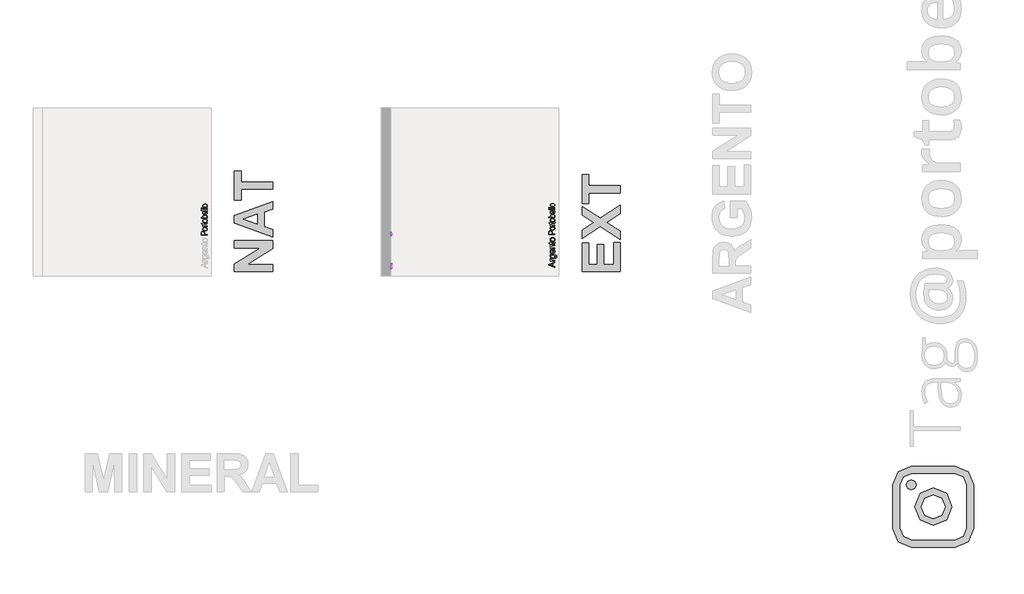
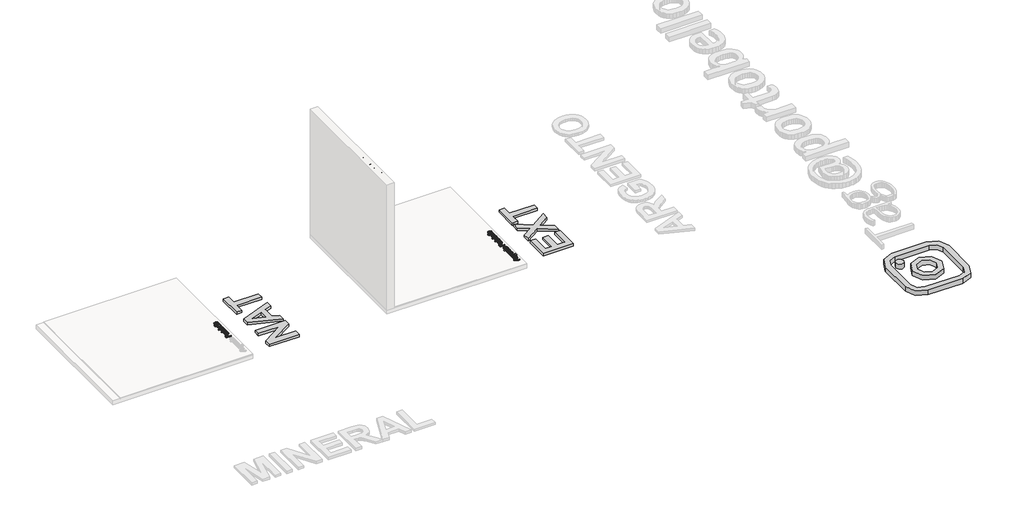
# One storey, part 4 of 14: 8 proxies.
"""IFC4 building model written with IfcOpenShell, lengths in millimetres."""

from ifc_helpers import new_model, si_unit, frame, origin, origin_with_axes, place, context, project, spatial, polyline, outline, extrude, transform, mapped, element, save
from components import generic_models_d67f6705

model = new_model("IFC4")

# Units and contexts
model_context = context("Model", 3, world=origin())
ifc_project = project(units=[si_unit("LENGTHUNIT", "METRE", prefix="MILLI")], contexts=[model_context])

# Site, building, storey
site = spatial("IfcSite", under=ifc_project)
building = spatial("IfcBuilding", under=site)
storey = spatial("IfcBuildingStorey", under=building, Name="PORTOBELLO - SHOWROOM", Elevation=0.0)

# Proxies
placement = place(None, origin())
generic_models_shape = generic_models_d67f6705(model_context)
element("IfcBuildingElementProxy", 1, Name="Blks_Instagram1 : Único 2", ObjectType="Blks_Instagram1 : Único 2", at=placement, inside=storey, context=model_context, shape_type="MappedRepresentation", body=[
    mapped(generic_models_shape, transform((203977.4235314, -12929.1085955, 0.0), x_axis=(-1.0, 0.0, 0.0), y_axis=(0.0, -1.0, 0.0), z_axis=(0.0, 0.0, 1.0))),
])
element("IfcBuildingElementProxy", 2, Name="10mm Arial", ObjectType="10mm Arial", at=placement, inside=storey, context=model_context, shape_type="SweptSolid", body=[
    extrude(outline(polyline([(197908.7702777, -9089.4106289), (197808.3139676, -9049.3114915), (197808.3139676, -9038.6183881), (197908.7702777, -8998.5192507), (197908.7702777, -9011.787528), (197877.3776808, -9023.2899717), (197877.3776808, -9064.6644334), (197908.7702777, -9076.1423516), (197908.7702777, -9089.4106289)]), holes=[polyline([(197864.820642, -9060.0536457), (197864.820642, -9027.8762339), (197840.1234974, -9036.926131), (197820.8710063, -9043.9649398), (197837.9652564, -9050.2189337), (197864.820642, -9060.0536457)])]), frame((0.0, 0.0, 17.0), z_axis=(0.0, 0.0, 1.0), x_axis=(1.0, 0.0, 0.0)), (0.0, 0.0, 1.0), 20.0),
    extrude(outline(polyline([(197908.7702777, -8986.6734504), (197834.997675, -8986.6734504), (197834.997675, -8975.6860415), (197845.9115075, -8975.6860415), (197835.8560663, -8967.8869432), (197833.4280451, -8960.038794), (197837.3030688, -8947.4327043), (197848.5602578, -8951.626559), (197845.9850839, -8960.4557269), (197848.462156, -8967.5558494), (197855.3292866, -8972.0807979), (197869.9955154, -8974.1164117), (197908.7702777, -8974.1164117), (197908.7702777, -8986.6734504)])), frame((0.0, 0.0, 17.0), z_axis=(0.0, 0.0, 1.0), x_axis=(1.0, 0.0, 0.0)), (0.0, 0.0, 1.0), 20.0),
    extrude(outline(polyline([(197915.0487971, -8942.7238147), (197916.618427, -8930.166776), (197923.2403029, -8926.0955485), (197926.036206, -8913.9063918), (197922.8724209, -8901.0550474), (197913.9942021, -8894.9236808), (197899.3524986, -8894.0652895), (197906.415833, -8902.9067201), (197908.7702777, -8913.6856626), (197906.0295569, -8926.6320431), (197897.8073943, -8936.2858798), (197885.7531276, -8942.2915534), (197871.5160943, -8944.2934446), (197852.0551368, -8940.7004638), (197838.2840874, -8930.301666), (197833.4280451, -8914.2987992), (197836.1748973, -8903.0967925), (197844.415454, -8894.0652895), (197834.997675, -8894.0652895), (197834.997675, -8881.5082507), (197898.6903111, -8881.5082507), (197923.0808873, -8884.941816), (197934.4239155, -8895.8188603), (197938.5932448, -8914.1516464), (197937.1247825, -8925.8349655), (197932.7193956, -8935.035081), (197925.3648214, -8940.9365214), (197915.0487971, -8942.7238147)]), holes=[polyline([(197870.657703, -8931.7364058), (197882.1754752, -8930.3967022), (197890.0941351, -8926.3775914), (197894.683463, -8920.3351296), (197896.213239, -8912.9253731), (197894.69266, -8905.5707989), (197890.1309233, -8899.4976803), (197882.3134309, -8895.4233872), (197871.025585, -8894.0652895), (197860.1393436, -8895.4632411), (197852.3003915, -8899.6570958), (197847.5639108, -8905.8191192), (197845.9850839, -8913.1215769), (197847.5393853, -8920.2922101), (197852.2022896, -8926.304015), (197859.9247458, -8930.3783081), (197870.657703, -8931.7364058)])]), frame((0.0, 0.0, 17.0), z_axis=(0.0, 0.0, 1.0), x_axis=(1.0, 0.0, 0.0)), (0.0, 0.0, 1.0), 20.0),
    extrude(outline(polyline([(197886.7954599, -8811.0220605), (197888.3650897, -8798.7102764), (197897.6418474, -8803.1463201), (197904.576423, -8810.2249828), (197908.8990364, -8819.786849), (197910.3399076, -8831.6725031), (197907.8536384, -8846.406177), (197900.394831, -8857.7430738), (197888.4478632, -8864.9719551), (197872.497113, -8867.3815821), (197856.0098682, -8864.9474296), (197843.67969, -8857.644972), (197835.9909563, -8846.4613593), (197833.4280451, -8832.3837416), (197835.984825, -8818.7445167), (197843.6551646, -8807.8460126), (197855.9608173, -8800.6999048), (197872.4235366, -8798.3178689), (197875.808051, -8798.3914453), (197875.808051, -8854.8245434), (197885.2074359, -8852.6509739), (197892.1174861, -8847.6017935), (197896.3665231, -8840.3146643), (197897.7828688, -8831.4272485), (197895.1586439, -8819.1154644), (197886.7954599, -8811.0220605)]), holes=[polyline([(197863.2510122, -8854.8245434), (197863.2510122, -8810.8749077), (197851.8711958, -8815.9026283), (197847.4566119, -8823.22348), (197845.9850839, -8832.4327926), (197850.6817107, -8847.8960991), (197856.1723495, -8852.7613385), (197863.2510122, -8854.8245434)])]), frame((0.0, 0.0, 17.0), z_axis=(0.0, 0.0, 1.0), x_axis=(1.0, 0.0, 0.0)), (0.0, 0.0, 1.0), 20.0),
    extrude(outline(polyline([(197908.7702777, -8785.7608301), (197834.997675, -8785.7608301), (197834.997675, -8773.2037914), (197845.2983708, -8773.2037914), (197836.3956265, -8763.6020713), (197833.4280451, -8750.4932095), (197835.8192781, -8738.6351465), (197842.0977975, -8730.5417426), (197851.3316355, -8726.7770836), (197863.4717414, -8726.114896), (197908.7702777, -8726.114896), (197908.7702777, -8738.6719347), (197865.1639986, -8738.6719347), (197854.0539623, -8740.1189373), (197848.1801131, -8745.232497), (197845.9850839, -8753.8531984), (197850.9147026, -8767.477095), (197858.0577447, -8771.7721173), (197869.6276334, -8773.2037914), (197908.7702777, -8773.2037914), (197908.7702777, -8785.7608301)])), frame((0.0, 0.0, 17.0), z_axis=(0.0, 0.0, 1.0), x_axis=(1.0, 0.0, 0.0)), (0.0, 0.0, 1.0), 20.0),
    extrude(outline(polyline([(197898.2979036, -8682.1652603), (197909.1381597, -8680.5956304), (197910.3399076, -8689.988884), (197908.2552429, -8700.5103091), (197902.7860639, -8705.7587589), (197888.536768, -8707.2793378), (197847.5547137, -8707.2793378), (197847.5547137, -8716.6971169), (197834.997675, -8716.6971169), (197834.997675, -8707.2793378), (197817.0695591, -8707.2793378), (197809.6873937, -8694.722299), (197834.997675, -8694.722299), (197834.997675, -8682.1652603), (197847.5547137, -8682.1652603), (197847.5547137, -8694.722299), (197888.168886, -8694.722299), (197894.6436091, -8694.0601115), (197896.9367402, -8691.9141332), (197897.7828688, -8687.6344393), (197898.2979036, -8682.1652603)])), frame((0.0, 0.0, 17.0), z_axis=(0.0, 0.0, 1.0), x_axis=(1.0, 0.0, 0.0)), (0.0, 0.0, 1.0), 20.0),
    extrude(outline(polyline([(197871.8839763, -8672.7474812), (197854.0968819, -8670.0312858), (197841.5950254, -8661.8826996), (197835.4697902, -8651.8149957), (197833.4280451, -8639.760729), (197835.9143143, -8626.5690938), (197843.3731217, -8616.0323403), (197855.2158563, -8609.1253558), (197870.8539068, -8606.8230277), (197893.1966066, -8610.8942551), (197905.8394845, -8622.7523181), (197910.3399076, -8639.760729), (197907.8628355, -8653.1117797), (197900.4316192, -8663.6362705), (197888.3405643, -8670.4696785), (197871.8839763, -8672.7474812)]), holes=[polyline([(197871.8594509, -8660.1904424), (197883.2239388, -8658.7373086), (197891.3204084, -8654.3779069), (197896.1672537, -8647.8173447), (197897.7828688, -8639.760729), (197896.1580567, -8631.7409015), (197891.2836202, -8625.192602), (197883.0798517, -8620.8332003), (197871.4670434, -8619.3800664), (197860.4336492, -8620.8423974), (197852.4475443, -8625.2293902), (197847.600699, -8631.7868867), (197845.9850839, -8639.760729), (197847.5945676, -8647.8173447), (197852.4230188, -8654.3779069), (197860.5010943, -8658.7373086), (197871.8594509, -8660.1904424)])]), frame((0.0, 0.0, 17.0), z_axis=(0.0, 0.0, 1.0), x_axis=(1.0, 0.0, 0.0)), (0.0, 0.0, 1.0), 20.0),
])
element("IfcBuildingElementProxy", 3, Name="10mm Arial", ObjectType="10mm Arial", at=placement, inside=storey, context=model_context, shape_type="SweptSolid", body=[
    extrude(outline(polyline([(-9109.6433663, 2558.2261649), (-9069.5442288, 2658.6824751), (-9058.8511255, 2658.6824751), (-9018.751988, 2558.2261649), (-9032.0202653, 2558.2261649), (-9043.522709, 2589.6187619), (-9084.8971708, 2589.6187619), (-9096.375089, 2558.2261649), (-9109.6433663, 2558.2261649)]), holes=[polyline([(-9080.2863831, 2602.1758006), (-9048.1089712, 2602.1758006), (-9057.1588683, 2626.8729452), (-9064.1976772, 2646.1254363), (-9070.4516711, 2629.0311863), (-9080.2863831, 2602.1758006)])]), frame((195271.7113716, 0.0, 0.0), z_axis=(1.0, 0.0, 0.0), x_axis=(0.0, 1.0, 0.0)), (0.0, 0.0, 1.0), 20.0),
    extrude(outline(polyline([(-9006.9061878, 2558.2261649), (-9006.9061878, 2631.9987677), (-8995.9187789, 2631.9987677), (-8995.9187789, 2621.0849352), (-8988.1196806, 2631.1403764), (-8980.2715313, 2633.5683975), (-8967.6654416, 2629.6933739), (-8971.8592964, 2618.4361848), (-8980.6884643, 2621.0113588), (-8987.7885868, 2618.5342867), (-8992.3135353, 2611.6671561), (-8994.349149, 2597.0009272), (-8994.349149, 2558.2261649), (-9006.9061878, 2558.2261649)])), frame((195271.7113716, 0.0, 0.0), z_axis=(1.0, 0.0, 0.0), x_axis=(0.0, 1.0, 0.0)), (0.0, 0.0, 1.0), 20.0),
    extrude(outline(polyline([(-8962.9565521, 2551.9476456), (-8950.3995133, 2550.3780157), (-8946.3282859, 2543.7561398), (-8934.1391291, 2540.9602366), (-8921.2877848, 2544.1240218), (-8915.1564182, 2553.0022406), (-8914.2980269, 2567.643944), (-8923.1394575, 2560.5806097), (-8933.9183999, 2558.2261649), (-8946.8647805, 2560.9668858), (-8956.5186172, 2569.1890484), (-8962.5242908, 2581.2433151), (-8964.5261819, 2595.4803483), (-8960.9332011, 2614.9413059), (-8950.5344034, 2628.7123552), (-8934.5315366, 2633.5683975), (-8923.3295298, 2630.8215453), (-8914.2980269, 2622.5809886), (-8914.2980269, 2631.9987677), (-8901.7409881, 2631.9987677), (-8901.7409881, 2568.3061316), (-8905.1745534, 2543.9155553), (-8916.0515977, 2532.5725271), (-8934.3843838, 2528.4031979), (-8946.0677028, 2529.8716602), (-8955.2678184, 2534.277047), (-8961.1692587, 2541.6316213), (-8962.9565521, 2551.9476456)]), holes=[polyline([(-8951.9691432, 2596.3387396), (-8950.6294396, 2584.8209675), (-8946.6103288, 2576.9023076), (-8940.567867, 2572.3129797), (-8933.1581105, 2570.7832037), (-8925.8035363, 2572.3037826), (-8919.7304177, 2576.8655194), (-8915.6561246, 2584.6830118), (-8914.2980269, 2595.9708576), (-8915.6959784, 2606.857099), (-8919.8898332, 2614.6960512), (-8926.0518566, 2619.4325319), (-8933.3543142, 2621.0113588), (-8940.5249474, 2619.4570573), (-8946.5367524, 2614.7941531), (-8950.6110455, 2607.0716968), (-8951.9691432, 2596.3387396)])]), frame((195271.7113716, 0.0, 0.0), z_axis=(1.0, 0.0, 0.0), x_axis=(0.0, 1.0, 0.0)), (0.0, 0.0, 1.0), 20.0),
    extrude(outline(polyline([(-8831.2547978, 2580.2009828), (-8818.9430137, 2578.6313529), (-8823.3790574, 2569.3545953), (-8830.4577202, 2562.4200197), (-8840.0195864, 2558.0974062), (-8851.9052405, 2556.6565351), (-8866.6389144, 2559.1428042), (-8877.9758112, 2566.6016117), (-8885.2046924, 2578.5485795), (-8887.6143195, 2594.4993297), (-8885.1801669, 2610.9865744), (-8877.8777093, 2623.3167526), (-8866.6940967, 2631.0054863), (-8852.616479, 2633.5683975), (-8838.977254, 2631.0116177), (-8828.0787499, 2623.3412781), (-8820.9326422, 2611.0356253), (-8818.5506063, 2594.5729061), (-8818.6241827, 2591.1883917), (-8875.0572807, 2591.1883917), (-8872.8837113, 2581.7890067), (-8867.8345309, 2574.8789566), (-8860.5474017, 2570.6299195), (-8851.6599858, 2569.2135739), (-8839.3482017, 2571.8377988), (-8831.2547978, 2580.2009828)]), holes=[polyline([(-8875.0572807, 2603.7454305), (-8831.107645, 2603.7454305), (-8836.1353656, 2615.1252469), (-8843.4562173, 2619.5398308), (-8852.6655299, 2621.0113588), (-8868.1288365, 2616.314732), (-8872.9940759, 2610.8240932), (-8875.0572807, 2603.7454305)])]), frame((195271.7113716, 0.0, 0.0), z_axis=(1.0, 0.0, 0.0), x_axis=(0.0, 1.0, 0.0)), (0.0, 0.0, 1.0), 20.0),
    extrude(outline(polyline([(-8805.9935675, 2558.2261649), (-8805.9935675, 2631.9987677), (-8793.4365287, 2631.9987677), (-8793.4365287, 2621.6980718), (-8783.8348086, 2630.6008161), (-8770.7259469, 2633.5683975), (-8758.8678839, 2631.1771646), (-8750.77448, 2624.8986452), (-8747.0098209, 2615.6648071), (-8746.3476333, 2603.5247013), (-8746.3476333, 2558.2261649), (-8758.9046721, 2558.2261649), (-8758.9046721, 2601.8324441), (-8760.3516746, 2612.9424804), (-8765.4652344, 2618.8163295), (-8774.0859358, 2621.0113588), (-8787.7098323, 2616.08174), (-8792.0048546, 2608.938698), (-8793.4365287, 2597.3688092), (-8793.4365287, 2558.2261649), (-8805.9935675, 2558.2261649)])), frame((195271.7113716, 0.0, 0.0), z_axis=(1.0, 0.0, 0.0), x_axis=(0.0, 1.0, 0.0)), (0.0, 0.0, 1.0), 20.0),
    extrude(outline(polyline([(-8702.3979976, 2568.6985391), (-8700.8283678, 2557.8582829), (-8710.2216214, 2556.6565351), (-8720.7430465, 2558.7411997), (-8725.9914963, 2564.2103787), (-8727.5120752, 2578.4596747), (-8727.5120752, 2619.4417289), (-8736.9298543, 2619.4417289), (-8736.9298543, 2631.9987677), (-8727.5120752, 2631.9987677), (-8727.5120752, 2649.9268836), (-8714.9550364, 2657.309049), (-8714.9550364, 2631.9987677), (-8702.3979976, 2631.9987677), (-8702.3979976, 2619.4417289), (-8714.9550364, 2619.4417289), (-8714.9550364, 2578.8275567), (-8714.2928488, 2572.3528336), (-8712.1468705, 2570.0597024), (-8707.8671766, 2569.2135739), (-8702.3979976, 2568.6985391)])), frame((195271.7113716, 0.0, 0.0), z_axis=(1.0, 0.0, 0.0), x_axis=(0.0, 1.0, 0.0)), (0.0, 0.0, 1.0), 20.0),
    extrude(outline(polyline([(-8692.9802186, 2595.1124663), (-8690.2640232, 2612.8995608), (-8682.115437, 2625.4014173), (-8672.047733, 2631.5266525), (-8659.9934663, 2633.5683975), (-8646.8018311, 2631.0821284), (-8636.2650776, 2623.6233209), (-8629.3580932, 2611.7805864), (-8627.055765, 2596.1425359), (-8631.1269924, 2573.7998361), (-8642.9850554, 2561.1569582), (-8659.9934663, 2556.6565351), (-8673.3445171, 2559.1336072), (-8683.8690078, 2566.5648235), (-8690.7024159, 2578.6558784), (-8692.9802186, 2595.1124663)]), holes=[polyline([(-8680.4231798, 2595.1369918), (-8678.9700459, 2583.7725038), (-8674.6106443, 2575.6760342), (-8668.050082, 2570.829189), (-8659.9934663, 2569.2135739), (-8651.9736388, 2570.838386), (-8645.4253393, 2575.7128224), (-8641.0659377, 2583.9165909), (-8639.6128038, 2595.5293992), (-8641.0751347, 2606.5627934), (-8645.4621275, 2614.5488984), (-8652.0196241, 2619.3957437), (-8659.9934663, 2621.0113588), (-8668.050082, 2619.4018751), (-8674.6106443, 2614.5734239), (-8678.9700459, 2606.4953484), (-8680.4231798, 2595.1369918)])]), frame((195271.7113716, 0.0, 0.0), z_axis=(1.0, 0.0, 0.0), x_axis=(0.0, 1.0, 0.0)), (0.0, 0.0, 1.0), 20.0),
])
element("IfcBuildingElementProxy", 4, Name="10mm Arial Narrow", ObjectType="10mm Arial Narrow", at=placement, inside=storey, context=model_context, shape_type="SweptSolid", body=[
    extrude(outline(polyline([(197908.7702777, -8560.3980819), (197808.051674, -8560.3980819), (197808.051674, -8529.1011972), (197809.9299947, -8512.8054957), (197819.4104379, -8501.3325096), (197836.4295467, -8497.0428311), (197848.5053722, -8498.8291395), (197858.131766, -8504.1880647), (197864.4330244, -8513.9318535), (197866.5334439, -8528.8727528), (197866.5334439, -8550.6511202), (197908.7702777, -8550.6511202), (197908.7702777, -8560.3980819)]), holes=[polyline([(197855.1619886, -8550.6511202), (197855.1619886, -8527.6797653), (197850.6311744, -8511.8155699), (197836.9625837, -8506.7897928), (197826.7968073, -8509.2646073), (197820.9968574, -8515.2422361), (197819.4231292, -8527.9082097), (197819.4231292, -8550.6511202), (197855.1619886, -8550.6511202)])]), frame((0.0, 0.0, 17.0), z_axis=(0.0, 0.0, 1.0), x_axis=(1.0, 0.0, 0.0)), (0.0, 0.0, 1.0), 20.0),
    extrude(outline(polyline([(197872.2191715, -8488.9203631), (197855.628396, -8486.9658942), (197843.6763112, -8481.1024876), (197836.4517566, -8472.2439209), (197834.0435717, -8461.3039717), (197836.4517566, -8450.4909361), (197843.6763112, -8441.6069867), (197855.4380256, -8435.667432), (197871.4576901, -8433.6875804), (197888.6195767, -8435.6325307), (197900.7620319, -8441.4673818), (197907.9865865, -8450.31643), (197910.3947713, -8461.3039717), (197907.9802408, -8472.1645999), (197900.7366492, -8481.0390308), (197888.7782187, -8486.95003), (197872.2191715, -8488.9203631)]), holes=[polyline([(197872.1937888, -8479.1734014), (197884.7455402, -8477.8693646), (197893.6167983, -8473.957254), (197898.8900568, -8468.1160572), (197900.6478097, -8461.0247619), (197898.8741926, -8454.3046887), (197893.5533415, -8448.6126154), (197884.6662192, -8444.7290604), (197872.1937888, -8443.434542), (197859.6801115, -8444.7385789), (197850.8215448, -8448.6506895), (197845.5482862, -8454.4918862), (197843.7905334, -8461.5831816), (197845.5578047, -8468.3508473), (197850.8596188, -8474.0334021), (197859.7277041, -8477.8884016), (197872.1937888, -8479.1734014)])]), frame((0.0, 0.0, 17.0), z_axis=(0.0, 0.0, 1.0), x_axis=(1.0, 0.0, 0.0)), (0.0, 0.0, 1.0), 20.0),
    extrude(outline(polyline([(197900.6478097, -8362.2098616), (197910.3947713, -8360.585368), (197910.3947713, -8367.9463546), (197908.2753148, -8376.221119), (197902.475365, -8380.5361801), (197887.8295398, -8381.7037849), (197845.415027, -8381.7037849), (197845.415027, -8389.8262529), (197842.1660398, -8389.8262529), (197847.0395206, -8391.4507465), (197845.415027, -8399.0147949), (197847.7375452, -8405.0939546), (197854.2228283, -8408.9648183), (197869.6301348, -8410.9446698), (197908.7702777, -8410.9446698), (197908.7702777, -8420.6916315), (197835.6680653, -8420.6916315), (197835.6680653, -8410.9446698), (197845.3642615, -8410.9446698), (197836.2772504, -8404.7005225), (197834.0435717, -8398.304079), (197835.6680653, -8389.8262529), (197835.6680653, -8381.7037849), (197819.4231292, -8381.7037849), (197811.3006612, -8371.9568232), (197835.6680653, -8371.9568232), (197835.6680653, -8362.2098616), (197845.415027, -8362.2098616), (197845.415027, -8371.9568232), (197890.0632185, -8371.9568232), (197898.058773, -8371.093811), (197900.6478097, -8366.4741573), (197900.6478097, -8362.2098616)])), frame((0.0, 0.0, 17.0), z_axis=(0.0, 0.0, 1.0), x_axis=(1.0, 0.0, 0.0)), (0.0, 0.0, 1.0), 20.0),
    extrude(outline(polyline([(197872.2191715, -8355.7118871), (197855.628396, -8353.7574183), (197843.6763112, -8347.8940117), (197836.4517566, -8339.0354449), (197834.0435717, -8328.0954958), (197836.4517566, -8317.2824602), (197843.6763112, -8308.3985108), (197855.4380256, -8302.458956), (197871.4576901, -8300.4791044), (197888.6195767, -8302.4240548), (197900.7620319, -8308.2589059), (197907.9865865, -8317.1079541), (197910.3947713, -8328.0954958), (197907.9802408, -8338.956124), (197900.7366492, -8347.8305549), (197888.7782187, -8353.7415541), (197872.2191715, -8355.7118871)]), holes=[polyline([(197872.1937888, -8345.9649255), (197884.7455402, -8344.6608886), (197893.6167983, -8340.748778), (197898.8900568, -8334.9075813), (197900.6478097, -8327.816286), (197898.8741926, -8321.0962128), (197893.5533415, -8315.4041395), (197884.6662192, -8311.5205844), (197872.1937888, -8310.2260661), (197859.6801115, -8311.530103), (197850.8215448, -8315.4422135), (197845.5482862, -8321.2834103), (197843.7905334, -8328.3747056), (197845.5578047, -8335.1423714), (197850.8596188, -8340.8249262), (197859.7277041, -8344.6799257), (197872.1937888, -8345.9649255)])]), frame((0.0, 0.0, 17.0), z_axis=(0.0, 0.0, 1.0), x_axis=(1.0, 0.0, 0.0)), (0.0, 0.0, 1.0), 20.0),
    extrude(outline(polyline([(197908.7702777, -8277.7361939), (197908.7702777, -8287.4831556), (197808.051674, -8287.4831556), (197808.051674, -8277.7361939), (197843.4605581, -8277.7361939), (197836.3787813, -8270.3371332), (197834.0435717, -8261.1358998), (197838.2444107, -8248.2541732), (197850.973841, -8238.9767917), (197871.6607518, -8235.4993601), (197888.1150953, -8237.4316191), (197900.3178344, -8243.2283961), (197907.8755371, -8251.6015184), (197910.3947713, -8261.2628134), (197907.7803519, -8270.6036517), (197900.0132419, -8277.7361939), (197908.7702777, -8277.7361939)]), holes=[polyline([(197871.6607518, -8277.7361939), (197888.9083051, -8275.6548115), (197897.6399582, -8269.7660221), (197900.6478097, -8261.3135788), (197898.8583284, -8255.3708512), (197893.4898847, -8250.1324939), (197872.0668752, -8245.2463217), (197850.6311744, -8249.9548149), (197845.5006936, -8255.1995179), (197843.7905334, -8261.5166405), (197845.5800146, -8267.4942694), (197850.9484583, -8272.786565), (197871.6607518, -8277.7361939)])]), frame((0.0, 0.0, 17.0), z_axis=(0.0, 0.0, 1.0), x_axis=(1.0, 0.0, 0.0)), (0.0, 0.0, 1.0), 20.0),
    extrude(outline(polyline([(197886.0273672, -8183.5155646), (197887.6518608, -8173.7686029), (197897.5384274, -8177.4681333), (197904.6582783, -8183.2871202), (197908.9606481, -8190.9907735), (197910.3947713, -8200.3443031), (197907.9802408, -8211.9378571), (197900.7366492, -8221.0819793), (197888.930515, -8227.0215341), (197872.8283566, -8229.0013856), (197856.1614329, -8227.0120155), (197843.9809037, -8221.0439052), (197836.5279047, -8212.0298694), (197834.0435717, -8200.9027228), (197836.4422381, -8190.2197736), (197843.6382371, -8181.4722562), (197855.3777417, -8175.6374052), (197871.4069247, -8173.6924548), (197874.6559119, -8173.7686029), (197874.6559119, -8219.254424), (197894.0990698, -8213.2514125), (197899.0106247, -8207.3213762), (197900.6478097, -8200.2173895), (197896.9926991, -8190.0389217), (197886.0273672, -8183.5155646)]), holes=[polyline([(197864.9089503, -8218.5944735), (197864.9089503, -8183.5155646), (197850.6438658, -8187.7798603), (197845.5038665, -8193.6051929), (197843.7905334, -8200.8265746), (197849.5016437, -8213.0356594), (197864.9089503, -8218.5944735)])]), frame((0.0, 0.0, 17.0), z_axis=(0.0, 0.0, 1.0), x_axis=(1.0, 0.0, 0.0)), (0.0, 0.0, 1.0), 20.0),
    extrude(outline(polyline([(197908.7702777, -8160.7726541), (197808.051674, -8160.7726541), (197808.051674, -8151.0256924), (197908.7702777, -8151.0256924), (197908.7702777, -8160.7726541)])), frame((0.0, 0.0, 17.0), z_axis=(0.0, 0.0, 1.0), x_axis=(1.0, 0.0, 0.0)), (0.0, 0.0, 1.0), 20.0),
    extrude(outline(polyline([(197908.7702777, -8134.7807563), (197808.051674, -8134.7807563), (197808.051674, -8125.0337947), (197908.7702777, -8125.0337947), (197908.7702777, -8134.7807563)])), frame((0.0, 0.0, 17.0), z_axis=(0.0, 0.0, 1.0), x_axis=(1.0, 0.0, 0.0)), (0.0, 0.0, 1.0), 20.0),
    extrude(outline(polyline([(197872.2191715, -8113.6623394), (197855.628396, -8111.7078705), (197843.6763112, -8105.8444639), (197836.4517566, -8096.9858972), (197834.0435717, -8086.0459481), (197836.4517566, -8075.2329125), (197843.6763112, -8066.3489631), (197855.4380256, -8060.4094083), (197871.4576901, -8058.4295567), (197888.6195767, -8060.3745071), (197900.7620319, -8066.2093581), (197907.9865865, -8075.0584063), (197910.3947713, -8086.0459481), (197907.9802408, -8096.9065762), (197900.7366492, -8105.7810071), (197888.7782187, -8111.6920063), (197872.2191715, -8113.6623394)]), holes=[polyline([(197872.1937888, -8103.9153778), (197884.7455402, -8102.6113409), (197893.6167983, -8098.6992303), (197898.8900568, -8092.8580336), (197900.6478097, -8085.7667382), (197898.8741926, -8079.0466651), (197893.5533415, -8073.3545917), (197884.6662192, -8069.4710367), (197872.1937888, -8068.1765184), (197859.6801115, -8069.4805552), (197850.8215448, -8073.3926658), (197845.5482862, -8079.2338626), (197843.7905334, -8086.3251579), (197845.5578047, -8093.0928237), (197850.8596188, -8098.7753785), (197859.7277041, -8102.6303779), (197872.1937888, -8103.9153778)])]), frame((0.0, 0.0, 17.0), z_axis=(0.0, 0.0, 1.0), x_axis=(1.0, 0.0, 0.0)), (0.0, 0.0, 1.0), 20.0),
])
element("IfcBuildingElementProxy", 5, Name="10mm Arial Narrow", ObjectType="10mm Arial Narrow", at=placement, inside=storey, context=model_context, shape_type="SweptSolid", body=[
    extrude(outline(polyline([(192333.320762, -8570.975844), (192232.6021582, -8570.975844), (192232.6021582, -8539.6789593), (192234.480479, -8523.3832578), (192243.9609221, -8511.9102717), (192260.980031, -8507.6205932), (192273.0558565, -8509.4069016), (192282.6822503, -8514.7658268), (192288.9835087, -8524.5096157), (192291.0839282, -8539.4505149), (192291.0839282, -8561.2288823), (192333.320762, -8561.2288823), (192333.320762, -8570.975844)]), holes=[polyline([(192279.7124729, -8561.2288823), (192279.7124729, -8538.2575274), (192275.1816587, -8522.393332), (192261.5130679, -8517.3675549), (192251.3472915, -8519.8423694), (192245.5473417, -8525.8199982), (192243.9736135, -8538.4859718), (192243.9736135, -8561.2288823), (192279.7124729, -8561.2288823)])]), frame((0.0, 0.0, 17.0), z_axis=(0.0, 0.0, 1.0), x_axis=(1.0, 0.0, 0.0)), (0.0, 0.0, 1.0), 20.0),
    extrude(outline(polyline([(192296.7696558, -8499.4981252), (192280.1788802, -8497.5436563), (192268.2267954, -8491.6802497), (192261.0022408, -8482.821683), (192258.594056, -8471.8817338), (192261.0022408, -8461.0686983), (192268.2267954, -8452.1847488), (192279.9885099, -8446.2451941), (192296.0081744, -8444.2653425), (192313.170061, -8446.2102928), (192325.3125161, -8452.0451439), (192332.5370707, -8460.8941921), (192334.9452556, -8471.8817338), (192332.5307251, -8482.742362), (192325.2871334, -8491.6167929), (192313.3287029, -8497.5277921), (192296.7696558, -8499.4981252)]), holes=[polyline([(192296.7442731, -8489.7511635), (192309.2960245, -8488.4471267), (192318.1672825, -8484.5350161), (192323.4405411, -8478.6938193), (192325.1982939, -8471.602524), (192323.4246769, -8464.8824508), (192318.1038258, -8459.1903775), (192309.2167035, -8455.3068225), (192296.7442731, -8454.0123041), (192284.2305957, -8455.316341), (192275.372029, -8459.2284516), (192270.0987705, -8465.0696483), (192268.3410176, -8472.1609437), (192270.108289, -8478.9286094), (192275.4101031, -8484.6111642), (192284.2781883, -8488.4661637), (192296.7442731, -8489.7511635)])]), frame((0.0, 0.0, 17.0), z_axis=(0.0, 0.0, 1.0), x_axis=(1.0, 0.0, 0.0)), (0.0, 0.0, 1.0), 20.0),
    extrude(outline(polyline([(192325.1982939, -8372.7876237), (192334.9452556, -8371.1631301), (192334.9452556, -8378.5241168), (192332.8257991, -8386.7988811), (192327.0258492, -8391.1139422), (192312.3800241, -8392.281547), (192269.9655112, -8392.281547), (192269.9655112, -8400.4040151), (192266.716524, -8400.4040151), (192271.5900048, -8402.0285087), (192269.9655112, -8409.592557), (192272.2880294, -8415.6717167), (192278.7733125, -8419.5425804), (192294.1806191, -8421.522432), (192333.320762, -8421.522432), (192333.320762, -8431.2693936), (192260.2185496, -8431.2693936), (192260.2185496, -8421.522432), (192269.9147458, -8421.522432), (192260.8277347, -8415.2782847), (192258.594056, -8408.8818411), (192260.2185496, -8400.4040151), (192260.2185496, -8392.281547), (192243.9736135, -8392.281547), (192235.8511454, -8382.5345854), (192260.2185496, -8382.5345854), (192260.2185496, -8372.7876237), (192269.9655112, -8372.7876237), (192269.9655112, -8382.5345854), (192314.6137028, -8382.5345854), (192322.6092572, -8381.6715731), (192325.1982939, -8377.0519194), (192325.1982939, -8372.7876237)])), frame((0.0, 0.0, 17.0), z_axis=(0.0, 0.0, 1.0), x_axis=(1.0, 0.0, 0.0)), (0.0, 0.0, 1.0), 20.0),
    extrude(outline(polyline([(192296.7696558, -8366.2896493), (192280.1788802, -8364.3351804), (192268.2267954, -8358.4717738), (192261.0022408, -8349.6132071), (192258.594056, -8338.6732579), (192261.0022408, -8327.8602223), (192268.2267954, -8318.9762729), (192279.9885099, -8313.0367181), (192296.0081744, -8311.0568666), (192313.170061, -8313.0018169), (192325.3125161, -8318.836668), (192332.5370707, -8327.6857162), (192334.9452556, -8338.6732579), (192332.5307251, -8349.5338861), (192325.2871334, -8358.408317), (192313.3287029, -8364.3193162), (192296.7696558, -8366.2896493)]), holes=[polyline([(192296.7442731, -8356.5426876), (192309.2960245, -8355.2386507), (192318.1672825, -8351.3265402), (192323.4405411, -8345.4853434), (192325.1982939, -8338.3940481), (192323.4246769, -8331.6739749), (192318.1038258, -8325.9819016), (192309.2167035, -8322.0983466), (192296.7442731, -8320.8038282), (192284.2305957, -8322.1078651), (192275.372029, -8326.0199757), (192270.0987705, -8331.8611724), (192268.3410176, -8338.9524678), (192270.108289, -8345.7201335), (192275.4101031, -8351.4026883), (192284.2781883, -8355.2576878), (192296.7442731, -8356.5426876)])]), frame((0.0, 0.0, 17.0), z_axis=(0.0, 0.0, 1.0), x_axis=(1.0, 0.0, 0.0)), (0.0, 0.0, 1.0), 20.0),
    extrude(outline(polyline([(192333.320762, -8288.313956), (192333.320762, -8298.0609177), (192232.6021582, -8298.0609177), (192232.6021582, -8288.313956), (192268.0110424, -8288.313956), (192260.9292655, -8280.9148953), (192258.594056, -8271.713662), (192262.7948949, -8258.8319353), (192275.5243253, -8249.5545538), (192296.2112361, -8246.0771222), (192312.6655796, -8248.0093812), (192324.8683187, -8253.8061582), (192332.4260214, -8262.1792805), (192334.9452556, -8271.8405755), (192332.3308362, -8281.1814138), (192324.5637261, -8288.313956), (192333.320762, -8288.313956)]), holes=[polyline([(192296.2112361, -8288.313956), (192313.4587893, -8286.2325736), (192322.1904425, -8280.3437843), (192325.1982939, -8271.891341), (192323.4088127, -8265.9486134), (192318.040369, -8260.710256), (192296.6173595, -8255.8240839), (192275.1816587, -8260.5325771), (192270.0511779, -8265.7772801), (192268.3410176, -8272.0944027), (192270.1304989, -8278.0720315), (192275.4989426, -8283.3643271), (192296.2112361, -8288.313956)])]), frame((0.0, 0.0, 17.0), z_axis=(0.0, 0.0, 1.0), x_axis=(1.0, 0.0, 0.0)), (0.0, 0.0, 1.0), 20.0),
    extrude(outline(polyline([(192310.5778515, -8194.0933267), (192312.2023451, -8184.3463651), (192322.0889116, -8188.0458954), (192329.2087625, -8193.8648823), (192333.5111323, -8201.5685356), (192334.9452556, -8210.9220652), (192332.5307251, -8222.5156192), (192325.2871334, -8231.6597414), (192313.4809992, -8237.5992962), (192297.3788409, -8239.5791478), (192280.7119172, -8237.5897777), (192268.531388, -8231.6216674), (192261.078389, -8222.6076315), (192258.594056, -8211.4804849), (192260.9927223, -8200.7975357), (192268.1887214, -8192.0500184), (192279.9282259, -8186.2151673), (192295.957409, -8184.2702169), (192299.2063962, -8184.3463651), (192299.2063962, -8229.8321861), (192318.6495541, -8223.8291746), (192323.561109, -8217.8991383), (192325.1982939, -8210.7951516), (192321.5431833, -8200.6166839), (192310.5778515, -8194.0933267)]), holes=[polyline([(192289.4594345, -8229.1722356), (192289.4594345, -8194.0933267), (192275.19435, -8198.3576224), (192270.0543507, -8204.182955), (192268.3410176, -8211.4043367), (192274.052128, -8223.6134215), (192289.4594345, -8229.1722356)])]), frame((0.0, 0.0, 17.0), z_axis=(0.0, 0.0, 1.0), x_axis=(1.0, 0.0, 0.0)), (0.0, 0.0, 1.0), 20.0),
    extrude(outline(polyline([(192333.320762, -8171.3504162), (192232.6021582, -8171.3504162), (192232.6021582, -8161.6034545), (192333.320762, -8161.6034545), (192333.320762, -8171.3504162)])), frame((0.0, 0.0, 17.0), z_axis=(0.0, 0.0, 1.0), x_axis=(1.0, 0.0, 0.0)), (0.0, 0.0, 1.0), 20.0),
    extrude(outline(polyline([(192333.320762, -8145.3585185), (192232.6021582, -8145.3585185), (192232.6021582, -8135.6115568), (192333.320762, -8135.6115568), (192333.320762, -8145.3585185)])), frame((0.0, 0.0, 17.0), z_axis=(0.0, 0.0, 1.0), x_axis=(1.0, 0.0, 0.0)), (0.0, 0.0, 1.0), 20.0),
    extrude(outline(polyline([(192296.7696558, -8124.2401015), (192280.1788802, -8122.2856327), (192268.2267954, -8116.422226), (192261.0022408, -8107.5636593), (192258.594056, -8096.6237102), (192261.0022408, -8085.8106746), (192268.2267954, -8076.9267252), (192279.9885099, -8070.9871704), (192296.0081744, -8069.0073188), (192313.170061, -8070.9522692), (192325.3125161, -8076.7871203), (192332.5370707, -8085.6361685), (192334.9452556, -8096.6237102), (192332.5307251, -8107.4843384), (192325.2871334, -8116.3587693), (192313.3287029, -8122.2697685), (192296.7696558, -8124.2401015)]), holes=[polyline([(192296.7442731, -8114.4931399), (192309.2960245, -8113.189103), (192318.1672825, -8109.2769924), (192323.4405411, -8103.4357957), (192325.1982939, -8096.3445003), (192323.4246769, -8089.6244272), (192318.1038258, -8083.9323539), (192309.2167035, -8080.0487988), (192296.7442731, -8078.7542805), (192284.2305957, -8080.0583173), (192275.372029, -8083.9704279), (192270.0987705, -8089.8116247), (192268.3410176, -8096.90292), (192270.108289, -8103.6705858), (192275.4101031, -8109.3531406), (192284.2781883, -8113.2081401), (192296.7442731, -8114.4931399)])]), frame((0.0, 0.0, 17.0), z_axis=(0.0, 0.0, 1.0), x_axis=(1.0, 0.0, 0.0)), (0.0, 0.0, 1.0), 20.0),
])
element("IfcBuildingElementProxy", 6, Name="10mm Arial Narrow", ObjectType="10mm Arial Narrow", at=placement, inside=storey, context=model_context, shape_type="SweptSolid", body=[
    extrude(outline(polyline([(-8580.8096597, 2558.2261649), (-8580.8096597, 2658.9447687), (-8549.5127751, 2658.9447687), (-8533.2170735, 2657.066448), (-8521.7440874, 2647.5860048), (-8517.454409, 2630.566896), (-8519.2407174, 2618.4910704), (-8524.5996426, 2608.8646767), (-8534.3434314, 2602.5634182), (-8549.2843306, 2600.4629988), (-8571.0626981, 2600.4629988), (-8571.0626981, 2558.2261649), (-8580.8096597, 2558.2261649)]), holes=[polyline([(-8571.0626981, 2611.834454), (-8548.0913431, 2611.834454), (-8532.2271477, 2616.3652682), (-8527.2013706, 2630.033859), (-8529.6761851, 2640.1996354), (-8535.653814, 2645.9995852), (-8548.3197876, 2647.5733134), (-8571.0626981, 2647.5733134), (-8571.0626981, 2611.834454)])]), frame((195271.7113716, 0.0, 0.0), z_axis=(1.0, 0.0, 0.0), x_axis=(0.0, 1.0, 0.0)), (0.0, 0.0, 1.0), 20.0),
    extrude(outline(polyline([(-8509.3319409, 2594.7772711), (-8507.3774721, 2611.3680467), (-8501.5140655, 2623.3201315), (-8492.6554987, 2630.5446861), (-8481.7155496, 2632.9528709), (-8470.902514, 2630.5446861), (-8462.0185646, 2623.3201315), (-8456.0790098, 2611.558417), (-8454.0991582, 2595.5387525), (-8456.0441086, 2578.3768659), (-8461.8789597, 2566.2344108), (-8470.7280079, 2559.0098562), (-8481.7155496, 2556.6016713), (-8492.5761778, 2559.0162019), (-8501.4506087, 2566.2597935), (-8507.3616079, 2578.218224), (-8509.3319409, 2594.7772711)]), holes=[polyline([(-8499.5849793, 2594.8026538), (-8498.2809424, 2582.2509024), (-8494.3688318, 2573.3796444), (-8488.5276351, 2568.1063858), (-8481.4363398, 2566.348633), (-8474.7162666, 2568.12225), (-8469.0241933, 2573.4431012), (-8465.1406382, 2582.3302234), (-8463.8461199, 2594.8026538), (-8465.1501568, 2607.3163312), (-8469.0622673, 2616.1748979), (-8474.9034641, 2621.4481564), (-8481.9947594, 2623.2059093), (-8488.7624252, 2621.4386379), (-8494.44498, 2616.1368238), (-8498.2999795, 2607.2687386), (-8499.5849793, 2594.8026538)])]), frame((195271.7113716, 0.0, 0.0), z_axis=(1.0, 0.0, 0.0), x_axis=(0.0, 1.0, 0.0)), (0.0, 0.0, 1.0), 20.0),
    extrude(outline(polyline([(-8382.6214394, 2566.348633), (-8380.9969458, 2556.6016713), (-8388.3579325, 2556.6016713), (-8396.6326968, 2558.7211278), (-8400.947758, 2564.5210777), (-8402.1153628, 2579.1669029), (-8402.1153628, 2621.5814157), (-8410.2378308, 2621.5814157), (-8410.2378308, 2624.8304029), (-8411.8623244, 2619.9569221), (-8419.4263728, 2621.5814157), (-8425.5055325, 2619.2588975), (-8429.3763961, 2612.7736144), (-8431.3562477, 2597.3663078), (-8431.3562477, 2558.2261649), (-8441.1032094, 2558.2261649), (-8441.1032094, 2631.3283773), (-8431.3562477, 2631.3283773), (-8431.3562477, 2621.6321811), (-8425.1121004, 2630.7191922), (-8418.7156568, 2632.9528709), (-8410.2378308, 2631.3283773), (-8402.1153628, 2631.3283773), (-8402.1153628, 2647.5733134), (-8392.3684011, 2655.6957815), (-8392.3684011, 2631.3283773), (-8382.6214394, 2631.3283773), (-8382.6214394, 2621.5814157), (-8392.3684011, 2621.5814157), (-8392.3684011, 2576.9332242), (-8391.5053889, 2568.9376697), (-8386.8857352, 2566.348633), (-8382.6214394, 2566.348633)])), frame((195271.7113716, 0.0, 0.0), z_axis=(1.0, 0.0, 0.0), x_axis=(0.0, 1.0, 0.0)), (0.0, 0.0, 1.0), 20.0),
    extrude(outline(polyline([(-8376.123465, 2594.7772711), (-8374.1689961, 2611.3680467), (-8368.3055895, 2623.3201315), (-8359.4470228, 2630.5446861), (-8348.5070737, 2632.9528709), (-8337.6940381, 2630.5446861), (-8328.8100887, 2623.3201315), (-8322.8705339, 2611.558417), (-8320.8906823, 2595.5387525), (-8322.8356327, 2578.3768659), (-8328.6704837, 2566.2344108), (-8337.5195319, 2559.0098562), (-8348.5070737, 2556.6016713), (-8359.3677018, 2559.0162019), (-8368.2421327, 2566.2597935), (-8374.1531319, 2578.218224), (-8376.123465, 2594.7772711)]), holes=[polyline([(-8366.3765034, 2594.8026538), (-8365.0724665, 2582.2509024), (-8361.1603559, 2573.3796444), (-8355.3191592, 2568.1063858), (-8348.2278638, 2566.348633), (-8341.5077907, 2568.12225), (-8335.8157173, 2573.4431012), (-8331.9321623, 2582.3302234), (-8330.637644, 2594.8026538), (-8331.9416808, 2607.3163312), (-8335.8537914, 2616.1748979), (-8341.6949882, 2621.4481564), (-8348.7862835, 2623.2059093), (-8355.5539493, 2621.4386379), (-8361.2365041, 2616.1368238), (-8365.0915035, 2607.2687386), (-8366.3765034, 2594.8026538)])]), frame((195271.7113716, 0.0, 0.0), z_axis=(1.0, 0.0, 0.0), x_axis=(0.0, 1.0, 0.0)), (0.0, 0.0, 1.0), 20.0),
    extrude(outline(polyline([(-8298.1477718, 2558.2261649), (-8307.8947334, 2558.2261649), (-8307.8947334, 2658.9447687), (-8298.1477718, 2658.9447687), (-8298.1477718, 2623.5358846), (-8290.7487111, 2630.6176614), (-8281.5474777, 2632.9528709), (-8268.6657511, 2628.752032), (-8259.3883696, 2616.0226016), (-8255.910938, 2595.3356908), (-8257.843197, 2578.8813473), (-8263.639974, 2566.6786082), (-8272.0130963, 2559.1209056), (-8281.6743913, 2556.6016713), (-8291.0152295, 2559.2160907), (-8298.1477718, 2566.9832008), (-8298.1477718, 2558.2261649)]), holes=[polyline([(-8298.1477718, 2595.3356908), (-8296.0663893, 2578.0881376), (-8290.1776, 2569.3564844), (-8281.7251567, 2566.348633), (-8275.7824291, 2568.1381142), (-8270.5440718, 2573.5065579), (-8265.6578996, 2594.9295674), (-8270.3663928, 2616.3652682), (-8275.6110958, 2621.495749), (-8281.9282184, 2623.2059093), (-8287.9058472, 2621.4164281), (-8293.1981428, 2616.0479843), (-8298.1477718, 2595.3356908)])]), frame((195271.7113716, 0.0, 0.0), z_axis=(1.0, 0.0, 0.0), x_axis=(0.0, 1.0, 0.0)), (0.0, 0.0, 1.0), 20.0),
    extrude(outline(polyline([(-8203.9271425, 2580.9690755), (-8194.1801808, 2579.3445819), (-8197.8797112, 2569.4580153), (-8203.6986981, 2562.3381644), (-8211.4023513, 2558.0357946), (-8220.7558809, 2556.6016713), (-8232.3494349, 2559.0162019), (-8241.4935572, 2566.2597935), (-8247.4331119, 2578.0659277), (-8249.4129635, 2594.168086), (-8247.4235934, 2610.8350097), (-8241.4554831, 2623.0155389), (-8232.4414473, 2630.4685379), (-8221.3143006, 2632.9528709), (-8210.6313514, 2630.5542046), (-8201.8838341, 2623.3582056), (-8196.048983, 2611.618701), (-8194.1040327, 2595.5895179), (-8194.1801808, 2592.3405307), (-8239.6660019, 2592.3405307), (-8233.6629903, 2572.8973728), (-8227.7329541, 2567.9858179), (-8220.6289674, 2566.348633), (-8210.4504996, 2570.0037436), (-8203.9271425, 2580.9690755)]), holes=[polyline([(-8239.0060513, 2602.0874924), (-8203.9271425, 2602.0874924), (-8208.1914382, 2616.3525769), (-8214.0167707, 2621.4925762), (-8221.2381525, 2623.2059093), (-8233.4472373, 2617.4947989), (-8239.0060513, 2602.0874924)])]), frame((195271.7113716, 0.0, 0.0), z_axis=(1.0, 0.0, 0.0), x_axis=(0.0, 1.0, 0.0)), (0.0, 0.0, 1.0), 20.0),
    extrude(outline(polyline([(195291.7113716, -8171.4372703), (195291.7113716, -8181.1842319), (195271.7113716, -8181.1842319), (195271.7113716, -8171.4372703), (195291.7113716, -8171.4372703)])), frame((0.0, 0.0, 2558.2261649), z_axis=(0.0, 0.0, 1.0), x_axis=(1.0, 0.0, 0.0)), (0.0, 0.0, 1.0), 100.7186038),
    extrude(outline(polyline([(195291.7113716, -8145.4453725), (195291.7113716, -8155.1923342), (195271.7113716, -8155.1923342), (195271.7113716, -8145.4453725), (195291.7113716, -8145.4453725)])), frame((0.0, 0.0, 2558.2261649), z_axis=(0.0, 0.0, 1.0), x_axis=(1.0, 0.0, 0.0)), (0.0, 0.0, 1.0), 100.7186038),
    extrude(outline(polyline([(-8134.0739173, 2594.7772711), (-8132.1194484, 2611.3680467), (-8126.2560418, 2623.3201315), (-8117.3974751, 2630.5446861), (-8106.4575259, 2632.9528709), (-8095.6444903, 2630.5446861), (-8086.7605409, 2623.3201315), (-8080.8209862, 2611.558417), (-8078.8411346, 2595.5387525), (-8080.7860849, 2578.3768659), (-8086.620936, 2566.2344108), (-8095.4699842, 2559.0098562), (-8106.4575259, 2556.6016713), (-8117.3181541, 2559.0162019), (-8126.192585, 2566.2597935), (-8132.1035842, 2578.218224), (-8134.0739173, 2594.7772711)]), holes=[polyline([(-8124.3269556, 2594.8026538), (-8123.0229188, 2582.2509024), (-8119.1108082, 2573.3796444), (-8113.2696114, 2568.1063858), (-8106.1783161, 2566.348633), (-8099.4582429, 2568.12225), (-8093.7661696, 2573.4431012), (-8089.8826146, 2582.3302234), (-8088.5880962, 2594.8026538), (-8089.8921331, 2607.3163312), (-8093.8042437, 2616.1748979), (-8099.6454404, 2621.4481564), (-8106.7367358, 2623.2059093), (-8113.5044015, 2621.4386379), (-8119.1869563, 2616.1368238), (-8123.0419558, 2607.2687386), (-8124.3269556, 2594.8026538)])]), frame((195271.7113716, 0.0, 0.0), z_axis=(1.0, 0.0, 0.0), x_axis=(0.0, 1.0, 0.0)), (0.0, 0.0, 1.0), 20.0),
])
element("IfcBuildingElementProxy", 7, Name="600mm Arial", ObjectType="600mm Arial", at=placement, inside=storey, context=model_context, shape_type="SweptSolid", body=[
    extrude(outline(polyline([(193378.7009266, -9153.3523318), (192766.5452866, -9153.3523318), (192766.5452866, -9031.1337579), (193178.5964788, -8774.3988404), (192766.5452866, -8774.3988404), (192766.5452866, -8657.7977661), (193378.7009266, -8657.7977661), (193378.7009266, -8783.811948), (192972.722707, -9036.7512575), (193378.7009266, -9036.7512575), (193378.7009266, -9153.3523318)])), origin_with_axes(), (0.0, 0.0, 1.0), 50.0),
    extrude(outline(polyline([(193378.7009266, -8026.2086138), (193378.7009266, -8148.7308364), (193242.6663399, -8196.70732), (193242.6663399, -8427.9357525), (193378.7009266, -8475.3049389), (193378.7009266, -8599.497229), (192766.5452866, -8376.0118366), (192766.5452866, -8251.8195466), (193378.7009266, -8026.2086138)]), holes=[polyline([(193135.7820218, -8234.0561016), (192912.2966295, -8312.8529214), (193135.7820218, -8390.5869709), (193135.7820218, -8234.0561016)])]), origin_with_axes(), (0.0, 0.0, 1.0), 50.0),
    extrude(outline(polyline([(193378.7009266, -7831.87349), (192873.4296047, -7831.87349), (192873.4296047, -8006.7751014), (192766.5452866, -8006.7751014), (192766.5452866, -7540.3708043), (192873.4296047, -7540.3708043), (192873.4296047, -7715.2724157), (193378.7009266, -7715.2724157), (193378.7009266, -7831.87349)])), origin_with_axes(), (0.0, 0.0, 1.0), 50.0),
])
element("IfcBuildingElementProxy", 8, Name="600mm Arial", ObjectType="600mm Arial", at=placement, inside=storey, context=model_context, shape_type="SweptSolid", body=[
    extrude(outline(polyline([(198957.5829484, -9153.3523318), (198345.4273084, -9153.3523318), (198345.4273084, -8696.6647909), (198452.3116265, -8696.6647909), (198452.3116265, -9036.7512575), (198588.3462132, -9036.7512575), (198588.3462132, -8716.0983033), (198695.2305313, -8716.0983033), (198695.2305313, -9036.7512575), (198850.6986303, -9036.7512575), (198850.6986303, -8686.9480347), (198957.5829484, -8686.9480347), (198957.5829484, -9153.3523318)])), origin_with_axes(), (0.0, 0.0, 1.0), 50.0),
    extrude(outline(polyline([(198957.5829484, -8643.2226318), (198636.6263455, -8434.4641981), (198345.4273084, -8623.7891195), (198345.4273084, -8487.4508842), (198531.7157435, -8366.2950804), (198345.4273084, -8245.1392767), (198345.4273084, -8108.8010414), (198636.6263455, -8298.1259628), (198957.5829484, -8089.367529), (198957.5829484, -8225.7057643), (198741.3851232, -8366.2950804), (198957.5829484, -8506.8843965), (198957.5829484, -8643.2226318)])), origin_with_axes(), (0.0, 0.0, 1.0), 50.0),
    extrude(outline(polyline([(198957.5829484, -7890.1740271), (198452.3116265, -7890.1740271), (198452.3116265, -8065.0756385), (198345.4273084, -8065.0756385), (198345.4273084, -7598.6713414), (198452.3116265, -7598.6713414), (198452.3116265, -7773.5729528), (198957.5829484, -7773.5729528), (198957.5829484, -7890.1740271)])), origin_with_axes(), (0.0, 0.0, 1.0), 50.0),
])

save(model, "model.ifc")
